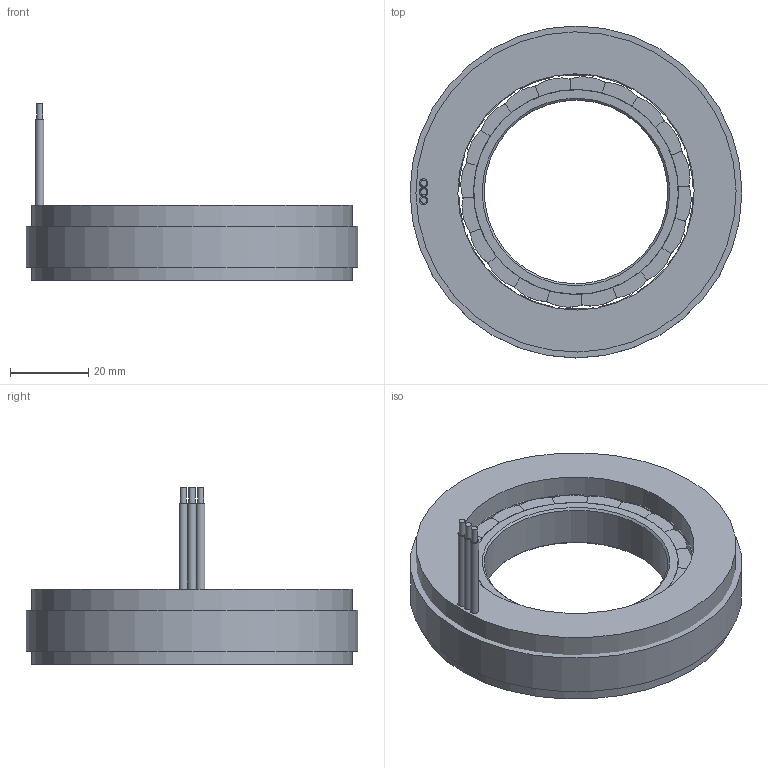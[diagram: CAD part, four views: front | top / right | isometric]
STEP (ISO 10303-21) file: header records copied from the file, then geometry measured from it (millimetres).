
FILE_DESCRIPTION (( 'STEP AP214' ), '1' );
FILE_NAME ('8508萇儂.STEP', '2024-01-17T03:46:46', ( '' ), ( '' ), 'SwSTEP 2.0', 'SolidWorks 2022', '' );
FILE_SCHEMA (( 'AUTOMOTIVE_DESIGN' ));
Length unit declared in the file: millimetre
Products named in the file (1): 8508萇儂
Bounding box: 85 x 85 x 45.3 mm (x, y, z)
Volume: 89357.1 mm3; surface area: 52997.1 mm2
Topology: 44 solids, 44 shells, 662 faces, 1705 edges, 1137 vertices
Faces by surface type: plane 386, cylinder 274, cone 2
Full cylindrical faces by diameter (mm): 1.55 x6, 2.2 x3, 47 x1, 52.4 x1, 60.5 x1, 82 x1, 85 x1
Entity records: 27927 total; most frequent: DIRECTION 3562, CARTESIAN_POINT 3483, ORIENTED_EDGE 3372, EDGE_CURVE 1686, AXIS2_PLACEMENT_3D 1213, LINE 1136, VECTOR 1136, VERTEX_POINT 1134
